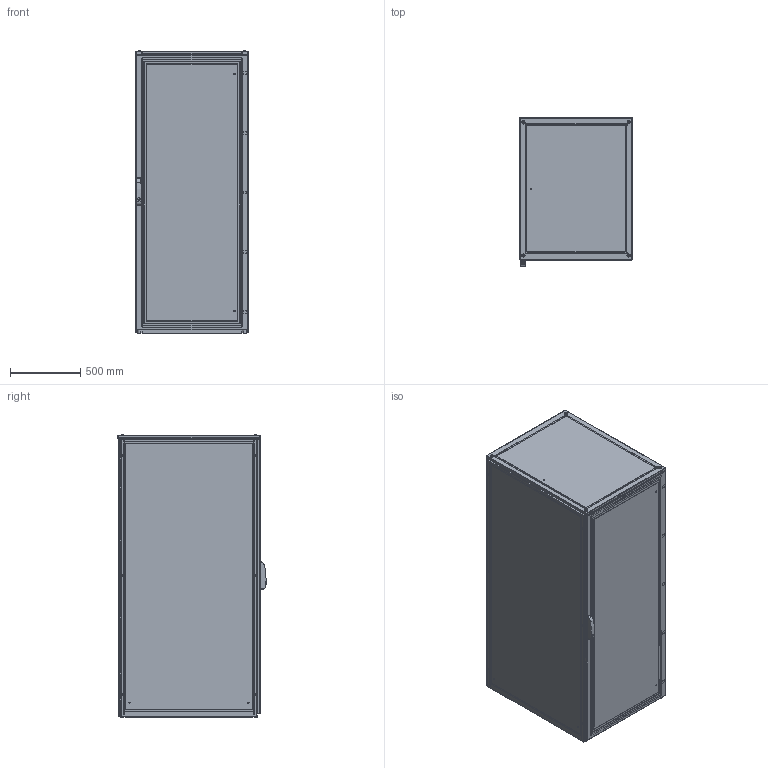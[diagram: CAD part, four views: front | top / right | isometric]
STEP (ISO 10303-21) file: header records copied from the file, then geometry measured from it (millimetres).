
FILE_DESCRIPTION(/* description */ ('STEP AP214'),/* implementation_level */ '2;1');
FILE_NAME(/* name */ 'ENUX082010PR-LOD350',/* time_stamp */ '2025-10-03T13:20:04+02:00',/* author */ ('License CC BY-ND 4.0'),/* organization */ ('CADENAS'),/* preprocessor_version */ 'ST-DEVELOPER v19.3',/* originating_system */ 'PARTsolutions',/* authorisation */ ' ');
FILE_SCHEMA (('AUTOMOTIVE_DESIGN {1 0 10303 214 3 1 1}'));
Length unit declared in the file: millimetre
Products named in the file (10): ENUX082010PR-LOD350; ENUX082010PR-LOD350_CON; ENUX082010PR-LOD350_floor1; ENUX082010PR-LOD350_floor2; Screw M12x30 architecture 350; ENUX082010PR-LOD350_side; ENUX082010PR-LOD350_top; ENUX082010PR-LOD350_back_door; ENUX082010PR-LOD350_door; ENUX082010PR-LOD350_handle
Assembly tree (20 placements, depth 2):
  ENUX082010PR-LOD350
    ENUX082010PR-LOD350_CON
    ENUX082010PR-LOD350_floor1  x2
    ENUX082010PR-LOD350_floor2  x7
    Screw M12x30 architecture 350  x4
    ENUX082010PR-LOD350_side  x2
    ENUX082010PR-LOD350_top
    ENUX082010PR-LOD350_back_door
    ENUX082010PR-LOD350_door
    ENUX082010PR-LOD350_handle
Bounding box: 812 x 1057 x 2014.1 mm (x, y, z)
Volume: 29131856.4 mm3; surface area: 24405946.8 mm2
Topology: 20 solids, 20 shells, 2024 faces, 5675 edges, 3700 vertices
Faces by surface type: plane 1040, cylinder 819, cone 77, torus 72, sphere 16
Full cylindrical faces by diameter (mm): 4.5 x144, 6 x14, 6.8 x8, 9 x9, 12 x16, 13 x4, 18 x1, 21 x4
Entity records: 48955 total; most frequent: DIRECTION 8481, CARTESIAN_POINT 8467, ORIENTED_EDGE 7944, EDGE_CURVE 3972, AXIS2_PLACEMENT_3D 3036, VERTEX_POINT 2781, LINE 2409, VECTOR 2409
